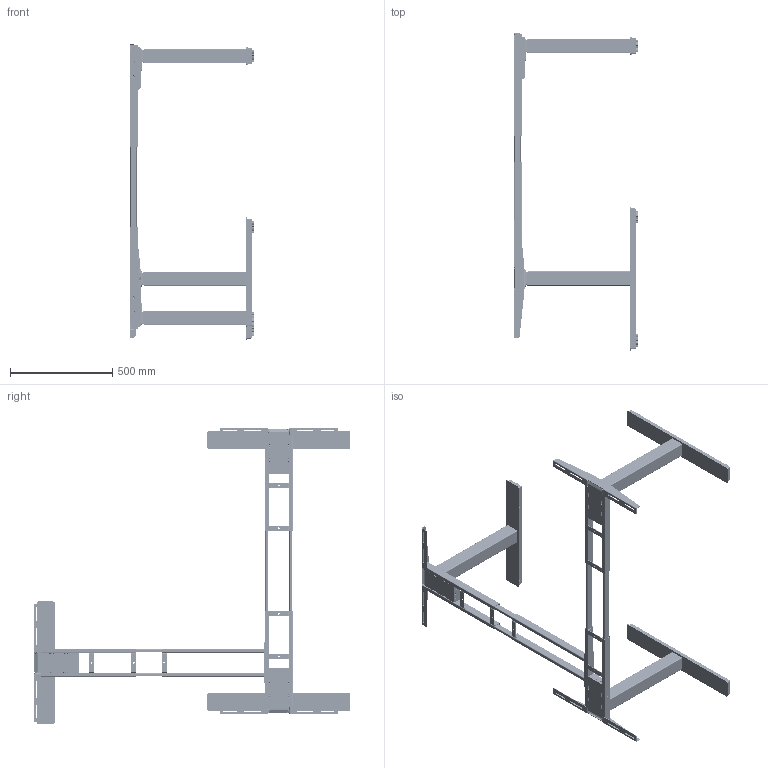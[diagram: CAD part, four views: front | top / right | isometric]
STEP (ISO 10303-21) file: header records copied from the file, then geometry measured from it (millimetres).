
FILE_DESCRIPTION((''),'2;1');
FILE_NAME('YQ2024-D010-EZ-TT-20240710_ASM','2024-07-10T09:51:08',('104003'),('捷昌驱动'),'CREO PARAMETRIC BY PTC INC, 2018100','CREO PARAMETRIC BY PTC INC, 2018100','');
FILE_SCHEMA(('CONFIG_CONTROL_DESIGN'));
Products named in the file (28): X00_2_RNM_1; OC35TS-2542_1_1; OC35TS-2536_1_1; OS36DR-3100_2_1_1; OS36DS-0248_1_1_1; OS36DS-1242_1_1_1; OC35TS-4138_ASM_1_ASM_1_ASM_1_ASM; OC35TS-4798_1_1_1; OC35TS-4799_1_1_1; OCSP-0688_1_1_1; OC35TS-2540_2_1_1; OS36DS-1130_1_1_1; OS36DS-0232_1_1_1; OS36DS-0125_1_1_1; OS36DS-0247_ASM_1_ASM_1_ASM_1_ASM; OS36DS-1277_ASM_1_ASM_1_ASM_1_ASM; EZDS1-3-S_ASM_1_RNM_ASM_1_ASM; OC35TS-2959_2_1; OC35TS-0380_3_1_1; OC35TS-0380_3_2_1; OC35TS-0380_3_ASM_1_ASM; 61863_ASM_1_ASM; OC35TT-0414_1_1; 50000_1_RNM_1; 5000001_ASM_1_RNM_ASM_1_ASM; EZ-TT_ASM_4_RNM_ASM_1_ASM; 631213391_ASM_1_ASM; YQ2024-D010-EZ-TT-20240710_ASM
Assembly tree (41 placements, depth 7):
  YQ2024-D010-EZ-TT-20240710_ASM
    631213391_ASM_1_ASM
      EZ-TT_ASM_4_RNM_ASM_1_ASM
        X00_2_RNM_1  x3
        OC35TS-2542_1_1  x3
        OC35TS-2536_1_1  x4
        EZDS1-3-S_ASM_1_RNM_ASM_1_ASM  x3
          OS36DS-1277_ASM_1_ASM_1_ASM_1_ASM
            OC35TS-4138_ASM_1_ASM_1_ASM_1_ASM
              OS36DR-3100_2_1_1
              OS36DS-0248_1_1_1
              OS36DS-1242_1_1_1
            OC35TS-4798_1_1_1
            OC35TS-4799_1_1_1
            OCSP-0688_1_1_1  x2
            OC35TS-2540_2_1_1
            OS36DS-1130_1_1_1
            OS36DS-0247_ASM_1_ASM_1_ASM_1_ASM
              OS36DS-0232_1_1_1
              OS36DS-0125_1_1_1
        61863_ASM_1_ASM  x2
          OC35TS-2959_2_1
          OC35TS-0380_3_ASM_1_ASM
            OC35TS-0380_3_1_1
            OC35TS-0380_3_2_1
        OC35TT-0414_1_1
        5000001_ASM_1_RNM_ASM_1_ASM
          50000_1_RNM_1
          OC35TS-0380_3_ASM_1_ASM  x2
            OC35TS-0380_3_1_1
            OC35TS-0380_3_2_1
Bounding box: 607 x 1550 x 1449 mm (x, y, z)
Volume: 5209337.4 mm3; surface area: 5391598 mm2
Topology: 53 solids, 223 shells, 10399 faces, 34824 edges, 24753 vertices
Faces by surface type: cylinder 6566, plane 3179, torus 264, bspline 180, cone 180, sphere 30
Entity records: 108979 total; most frequent: CARTESIAN_POINT 27008, DIRECTION 17576, ORIENTED_EDGE 17320, EDGE_CURVE 8789, AXIS2_PLACEMENT_3D 6512, VERTEX_POINT 6125, VECTOR 4552, LINE 4552
